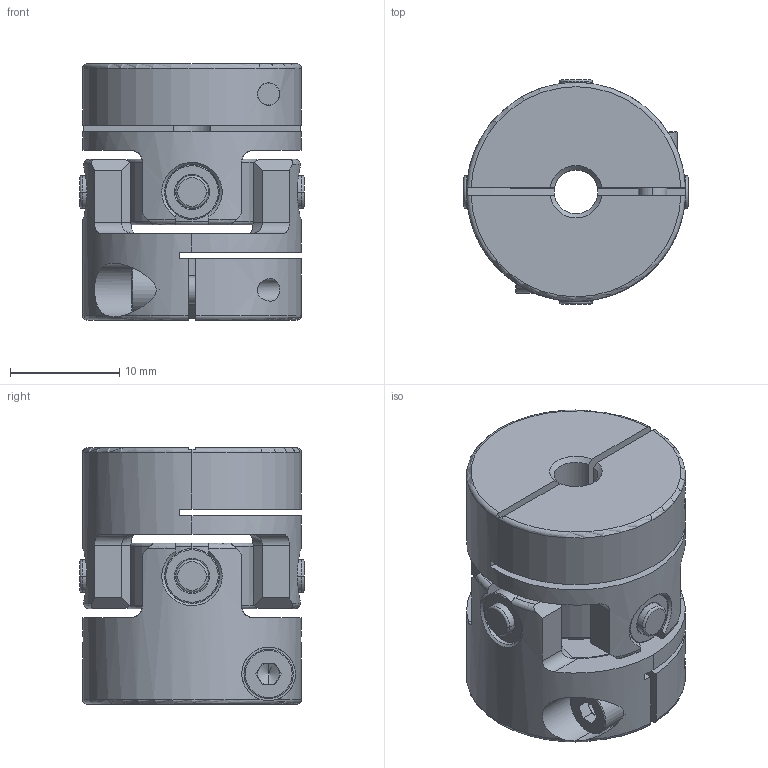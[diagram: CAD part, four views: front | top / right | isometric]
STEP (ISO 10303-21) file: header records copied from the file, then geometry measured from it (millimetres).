
FILE_DESCRIPTION (( 'STEP AP203' ), '1' );
FILE_NAME ('SCJA-20C-4X8_203.STEP', '2013-03-10T02:00:31', ( 'Z77' ), ( '' ), 'SwSTEP 2.0', 'SolidWorks 2012', '' );
FILE_SCHEMA (( 'CONFIG_CONTROL_DESIGN' ));
Length unit declared in the file: millimetre
Products named in the file (1): SCJA-20C-4X8_203
Bounding box: 20.5 x 20.5 x 23.4 mm (x, y, z)
Volume: 5468.9 mm3; surface area: 4675.5 mm2
Topology: 1 solids, 1 shells, 337 faces, 864 edges, 535 vertices
Faces by surface type: plane 116, cylinder 96, torus 76, cone 37, bspline 12
Entity records: 15612 total; most frequent: CARTESIAN_POINT 7472, ORIENTED_EDGE 1720, DIRECTION 1705, EDGE_CURVE 860, AXIS2_PLACEMENT_3D 706, VERTEX_POINT 535, CIRCLE 380, EDGE_LOOP 361
